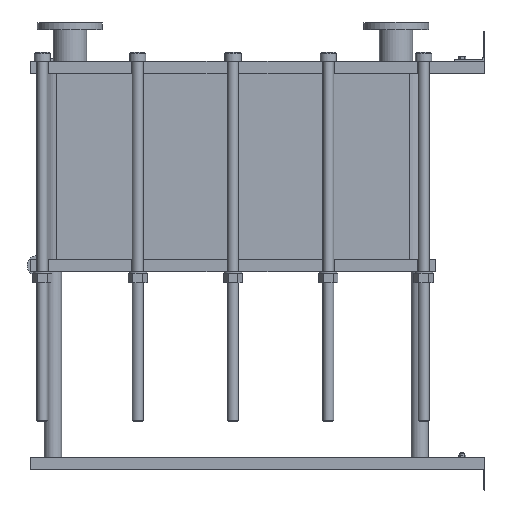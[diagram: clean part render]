
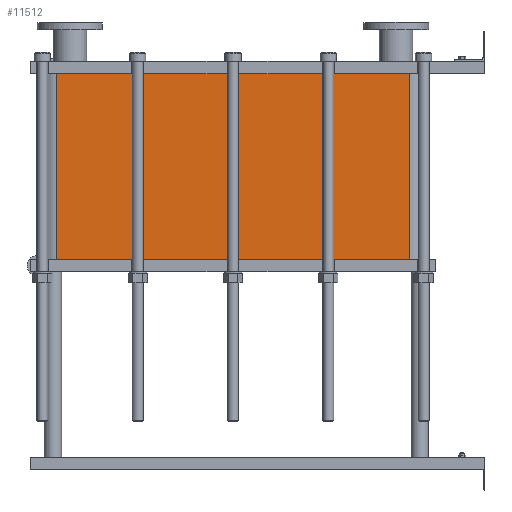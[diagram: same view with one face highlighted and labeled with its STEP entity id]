
A CAD part, left-side view. The second image highlights one B-rep face of the part: STEP entity #11512.
In plain terms, the highlighted planar face has unit normal (-1, 0, 0).
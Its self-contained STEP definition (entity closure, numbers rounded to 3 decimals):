
#1129=LINE('',#23232,#2102);
#1130=LINE('',#23236,#2103);
#1131=LINE('',#23238,#2104);
#1132=LINE('',#23239,#2105);
#2102=VECTOR('',#15887,10.);
#2103=VECTOR('',#15892,10.);
#2104=VECTOR('',#15893,10.);
#2105=VECTOR('',#15894,10.);
#3267=FACE_OUTER_BOUND('',#4093,.T.);
#4093=EDGE_LOOP('',(#10103,#10104,#10105,#10106));
#5642=VERTEX_POINT('',#23229);
#5643=VERTEX_POINT('',#23231);
#5644=VERTEX_POINT('',#23235);
#5645=VERTEX_POINT('',#23237);
#7159=EDGE_CURVE('',#5643,#5642,#1129,.T.);
#7161=EDGE_CURVE('',#5642,#5644,#1130,.T.);
#7162=EDGE_CURVE('',#5645,#5644,#1131,.T.);
#7163=EDGE_CURVE('',#5645,#5643,#1132,.T.);
#10103=ORIENTED_EDGE('',*,*,#7161,.T.);
#10104=ORIENTED_EDGE('',*,*,#7162,.F.);
#10105=ORIENTED_EDGE('',*,*,#7163,.T.);
#10106=ORIENTED_EDGE('',*,*,#7159,.T.);
#10857=PLANE('',#12751);
#11512=ADVANCED_FACE('',(#3267),#10857,.T.);
#12751=AXIS2_PLACEMENT_3D('',#23234,#15890,#15891);
#15887=DIRECTION('',(0.,0.,-1.));
#15890=DIRECTION('center_axis',(-1.,0.,0.));
#15891=DIRECTION('ref_axis',(0.,1.,0.));
#15892=DIRECTION('',(0.,-1.,0.));
#15893=DIRECTION('',(0.,0.,-1.));
#15894=DIRECTION('',(0.,1.,0.));
#23229=CARTESIAN_POINT('',(-200.,1414.,-614.1));
#23231=CARTESIAN_POINT('',(-200.,1414.,0.));
#23232=CARTESIAN_POINT('',(-200.,1414.,0.));
#23234=CARTESIAN_POINT('Origin',(-200.,248.,0.));
#23235=CARTESIAN_POINT('',(-200.,248.,-614.1));
#23236=CARTESIAN_POINT('',(-200.,539.5,-614.1));
#23237=CARTESIAN_POINT('',(-200.,248.,0.));
#23238=CARTESIAN_POINT('',(-200.,248.,0.));
#23239=CARTESIAN_POINT('',(-200.,248.,0.));
